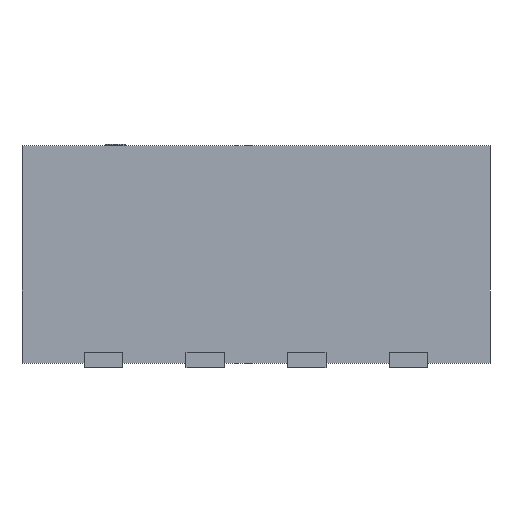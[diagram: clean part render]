
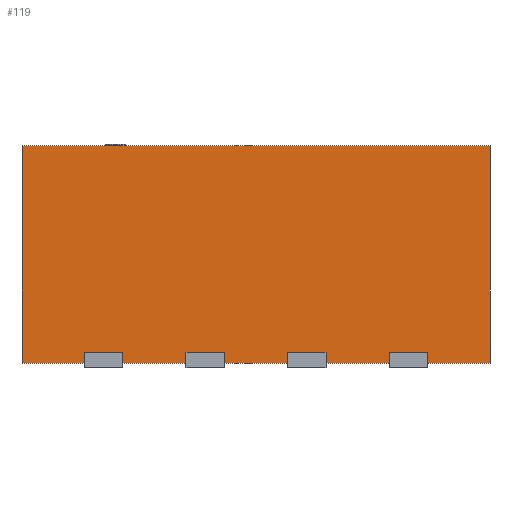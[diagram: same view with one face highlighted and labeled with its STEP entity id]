
A CAD part, left-side view. The second image highlights one B-rep face of the part: STEP entity #119.
In plain terms, the highlighted planar face has unit normal (-1, 0, 0).
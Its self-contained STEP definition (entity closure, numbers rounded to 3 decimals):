
#21 = EDGE_CURVE('',#22,#24,#26,.T.);
#22 = VERTEX_POINT('',#23);
#23 = CARTESIAN_POINT('',(-3.75,-2.925,0.08));
#24 = VERTEX_POINT('',#25);
#25 = CARTESIAN_POINT('',(-3.75,-2.925,2.8));
#26 = LINE('',#27,#28);
#27 = CARTESIAN_POINT('',(-3.75,-2.925,0.08));
#28 = VECTOR('',#29,1.);
#29 = DIRECTION('',(0.,0.,1.));
#94 = VERTEX_POINT('',#95);
#95 = CARTESIAN_POINT('',(-3.75,2.925,2.8));
#101 = EDGE_CURVE('',#102,#94,#104,.T.);
#102 = VERTEX_POINT('',#103);
#103 = CARTESIAN_POINT('',(-3.75,2.925,0.08));
#104 = LINE('',#105,#106);
#105 = CARTESIAN_POINT('',(-3.75,2.925,0.08));
#106 = VECTOR('',#107,1.);
#107 = DIRECTION('',(0.,0.,1.));
#119 = ADVANCED_FACE('',(#120),#136,.F.);
#120 = FACE_BOUND('',#121,.F.);
#121 = EDGE_LOOP('',(#122,#123,#129,#130));
#122 = ORIENTED_EDGE('',*,*,#101,.T.);
#123 = ORIENTED_EDGE('',*,*,#124,.T.);
#124 = EDGE_CURVE('',#94,#24,#125,.T.);
#125 = LINE('',#126,#127);
#126 = CARTESIAN_POINT('',(-3.75,2.925,2.8));
#127 = VECTOR('',#128,1.);
#128 = DIRECTION('',(0.,-1.,0.));
#129 = ORIENTED_EDGE('',*,*,#21,.F.);
#130 = ORIENTED_EDGE('',*,*,#131,.F.);
#131 = EDGE_CURVE('',#102,#22,#132,.T.);
#132 = LINE('',#133,#134);
#133 = CARTESIAN_POINT('',(-3.75,2.925,0.08));
#134 = VECTOR('',#135,1.);
#135 = DIRECTION('',(0.,-1.,0.));
#136 = PLANE('',#137);
#137 = AXIS2_PLACEMENT_3D('',#138,#139,#140);
#138 = CARTESIAN_POINT('',(-3.75,2.925,0.08));
#139 = DIRECTION('',(1.,0.,-0.));
#140 = DIRECTION('',(0.,-1.,0.));
